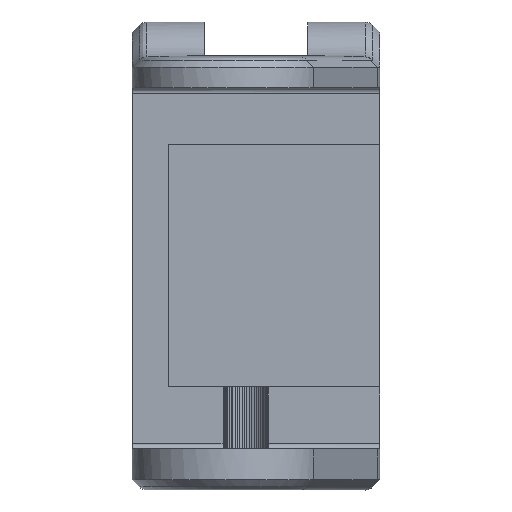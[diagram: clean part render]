
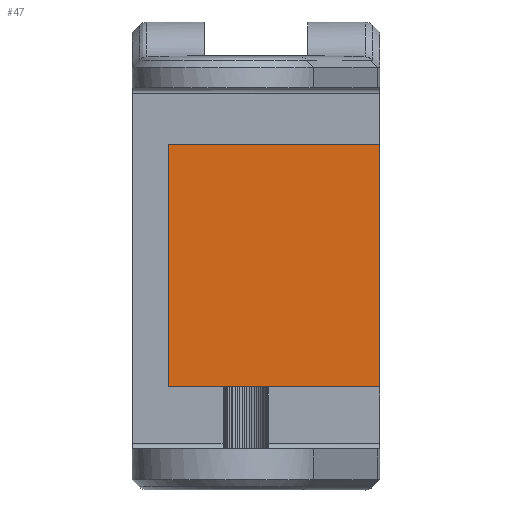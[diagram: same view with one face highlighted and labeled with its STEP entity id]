
A CAD part, left-side view. The second image highlights one B-rep face of the part: STEP entity #47.
In plain terms, the highlighted planar face has unit normal (-1, 0, 0).
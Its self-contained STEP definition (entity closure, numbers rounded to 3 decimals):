
#47=ADVANCED_FACE('',(#281),#4039,.T.);
#281=FACE_OUTER_BOUND('',#522,.T.);
#522=EDGE_LOOP('',(#1001,#1002,#1003,#1004));
#1001=ORIENTED_EDGE('',*,*,#2066,.F.);
#1002=ORIENTED_EDGE('',*,*,#2069,.F.);
#1003=ORIENTED_EDGE('',*,*,#2067,.T.);
#1004=ORIENTED_EDGE('',*,*,#2062,.F.);
#2062=EDGE_CURVE('',#3438,#3440,#2707,.T.);
#2066=EDGE_CURVE('',#3442,#3438,#2711,.T.);
#2067=EDGE_CURVE('',#3443,#3440,#2712,.T.);
#2069=EDGE_CURVE('',#3443,#3442,#2714,.T.);
#2707=B_SPLINE_CURVE_WITH_KNOTS('',1,(#6365,#6366),.UNSPECIFIED.,.F.,.F.,
(2,2),(12.5,36.),.UNSPECIFIED.);
#2711=B_SPLINE_CURVE_WITH_KNOTS('',1,(#6373,#6374),.UNSPECIFIED.,.F.,.F.,
(2,2),(0.,20.5),.UNSPECIFIED.);
#2712=B_SPLINE_CURVE_WITH_KNOTS('',1,(#6375,#6376),.UNSPECIFIED.,.F.,.F.,
(2,2),(0.,20.5),.UNSPECIFIED.);
#2714=B_SPLINE_CURVE_WITH_KNOTS('',1,(#6379,#6380),.UNSPECIFIED.,.F.,.F.,
(2,2),(336.084,359.584),.UNSPECIFIED.);
#3438=VERTEX_POINT('',#5909);
#3440=VERTEX_POINT('',#5911);
#3442=VERTEX_POINT('',#5913);
#3443=VERTEX_POINT('',#5914);
#4039=PLANE('',#4362);
#4362=AXIS2_PLACEMENT_3D('',#5740,#4647,$);
#4647=DIRECTION('',(-1.,0.,0.));
#5740=CARTESIAN_POINT('',(-471.154,-395.664,15.363));
#5909=CARTESIAN_POINT('',(-471.154,-375.164,15.363));
#5911=CARTESIAN_POINT('',(-471.154,-375.164,38.863));
#5913=CARTESIAN_POINT('',(-471.154,-395.664,15.363));
#5914=CARTESIAN_POINT('',(-471.154,-395.664,38.863));
#6365=CARTESIAN_POINT('',(-471.154,-375.164,15.363));
#6366=CARTESIAN_POINT('',(-471.154,-375.164,38.863));
#6373=CARTESIAN_POINT('',(-471.154,-395.664,15.363));
#6374=CARTESIAN_POINT('',(-471.154,-375.164,15.363));
#6375=CARTESIAN_POINT('',(-471.154,-395.664,38.863));
#6376=CARTESIAN_POINT('',(-471.154,-375.164,38.863));
#6379=CARTESIAN_POINT('',(-471.154,-395.664,38.863));
#6380=CARTESIAN_POINT('',(-471.154,-395.664,15.363));
